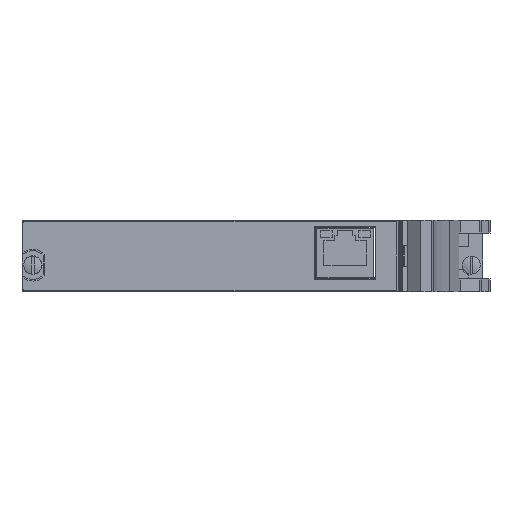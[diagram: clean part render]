
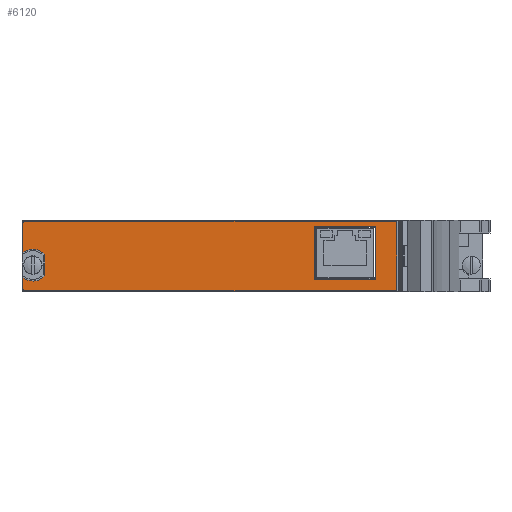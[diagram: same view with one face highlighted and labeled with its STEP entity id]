
A CAD part, left-side view. The second image highlights one B-rep face of the part: STEP entity #6120.
In plain terms, the highlighted planar face has unit normal (-1, 0, 0).
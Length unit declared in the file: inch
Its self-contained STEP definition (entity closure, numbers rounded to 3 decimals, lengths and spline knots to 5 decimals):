
#2058=CARTESIAN_POINT('',(-0.215,0.527,0.665));
#2059=DIRECTION('',(-1.,0.,0.));
#2060=DIRECTION('',(0.,0.,1.));
#2061=AXIS2_PLACEMENT_3D('',#2058,#2059,#2060);
#2063=DIRECTION('',(0.,1.,0.));
#2064=VECTOR('',#2063,4.07);
#2065=CARTESIAN_POINT('',(-0.215,-3.543,0.685));
#2066=LINE('',#2065,#2064);
#2067=CARTESIAN_POINT('',(-0.215,-3.543,0.665));
#2068=DIRECTION('',(-1.,0.,0.));
#2069=DIRECTION('',(0.,-1.,0.));
#2070=AXIS2_PLACEMENT_3D('',#2067,#2068,#2069);
#2072=DIRECTION('',(0.,0.,1.));
#2073=VECTOR('',#2072,0.728);
#2074=CARTESIAN_POINT('',(-0.215,-3.563,-0.063));
#2075=LINE('',#2074,#2073);
#2076=CARTESIAN_POINT('',(-0.215,-3.543,-0.063));
#2077=DIRECTION('',(-1.,0.,0.));
#2078=DIRECTION('',(0.,0.,-1.));
#2079=AXIS2_PLACEMENT_3D('',#2076,#2077,#2078);
#2081=DIRECTION('',(0.,-1.,0.));
#2082=VECTOR('',#2081,4.07);
#2083=CARTESIAN_POINT('',(-0.215,0.527,-0.083));
#2084=LINE('',#2083,#2082);
#2085=CARTESIAN_POINT('',(-0.215,0.527,-0.063));
#2086=DIRECTION('',(-1.,0.,0.));
#2087=DIRECTION('',(0.,1.,0.));
#2088=AXIS2_PLACEMENT_3D('',#2085,#2086,#2087);
#2090=DIRECTION('',(0.,0.,-1.));
#2091=VECTOR('',#2090,0.1263);
#2092=CARTESIAN_POINT('',(-0.215,0.547,0.0633));
#2093=LINE('',#2092,#2091);
#2094=CARTESIAN_POINT('',(-0.215,0.439,0.201));
#2095=DIRECTION('',(1.,0.,0.));
#2096=DIRECTION('',(0.,-0.76,-0.65));
#2097=AXIS2_PLACEMENT_3D('',#2094,#2095,#2096);
#2099=DIRECTION('',(0.,0.,-1.));
#2100=VECTOR('',#2099,0.22747);
#2101=CARTESIAN_POINT('',(-0.215,0.306,0.31474));
#2102=LINE('',#2101,#2100);
#2103=CARTESIAN_POINT('',(-0.215,0.439,0.201));
#2104=DIRECTION('',(1.,0.,0.));
#2105=DIRECTION('',(0.,0.617,0.787));
#2106=AXIS2_PLACEMENT_3D('',#2103,#2104,#2105);
#2108=DIRECTION('',(0.,0.,-1.));
#2109=VECTOR('',#2108,0.3263);
#2110=CARTESIAN_POINT('',(-0.215,0.547,0.665));
#2111=LINE('',#2110,#2109);
#2112=DIRECTION('',(0.,0.,-1.));
#2113=VECTOR('',#2112,0.585);
#2114=CARTESIAN_POINT('',(-0.215,-2.657,0.627));
#2115=LINE('',#2114,#2113);
#2116=DIRECTION('',(0.,-1.,0.));
#2117=VECTOR('',#2116,0.675);
#2118=CARTESIAN_POINT('',(-0.215,-2.657,0.042));
#2119=LINE('',#2118,#2117);
#2120=DIRECTION('',(0.,0.,1.));
#2121=VECTOR('',#2120,0.585);
#2122=CARTESIAN_POINT('',(-0.215,-3.332,0.042));
#2123=LINE('',#2122,#2121);
#2124=DIRECTION('',(0.,1.,0.));
#2125=VECTOR('',#2124,0.675);
#2126=CARTESIAN_POINT('',(-0.215,-3.332,0.627));
#2127=LINE('',#2126,#2125);
#3111=CARTESIAN_POINT('',(-0.215,0.527,0.685));
#3112=CARTESIAN_POINT('',(-0.215,0.547,0.665));
#3113=VERTEX_POINT('',#3111);
#3114=VERTEX_POINT('',#3112);
#3115=CARTESIAN_POINT('',(-0.215,0.547,0.3387));
#3116=VERTEX_POINT('',#3115);
#3117=CARTESIAN_POINT('',(-0.215,0.306,0.31474));
#3118=VERTEX_POINT('',#3117);
#3119=CARTESIAN_POINT('',(-0.215,0.306,0.08726));
#3120=VERTEX_POINT('',#3119);
#3121=CARTESIAN_POINT('',(-0.215,0.547,0.0633));
#3122=VERTEX_POINT('',#3121);
#3123=CARTESIAN_POINT('',(-0.215,0.547,-0.063));
#3124=VERTEX_POINT('',#3123);
#3125=CARTESIAN_POINT('',(-0.215,0.527,-0.083));
#3126=VERTEX_POINT('',#3125);
#3127=CARTESIAN_POINT('',(-0.215,-3.543,-0.083));
#3128=VERTEX_POINT('',#3127);
#3129=CARTESIAN_POINT('',(-0.215,-3.563,-0.063));
#3130=VERTEX_POINT('',#3129);
#3131=CARTESIAN_POINT('',(-0.215,-3.563,0.665));
#3132=VERTEX_POINT('',#3131);
#3133=CARTESIAN_POINT('',(-0.215,-3.543,0.685));
#3134=VERTEX_POINT('',#3133);
#3135=CARTESIAN_POINT('',(-0.215,-2.657,0.627));
#3136=CARTESIAN_POINT('',(-0.215,-2.657,0.042));
#3137=VERTEX_POINT('',#3135);
#3138=VERTEX_POINT('',#3136);
#3139=CARTESIAN_POINT('',(-0.215,-3.332,0.042));
#3140=VERTEX_POINT('',#3139);
#3141=CARTESIAN_POINT('',(-0.215,-3.332,0.627));
#3142=VERTEX_POINT('',#3141);
#6091=CARTESIAN_POINT('',(-0.215,0.439,0.201));
#6092=DIRECTION('',(-1.,0.,0.));
#6093=DIRECTION('',(0.,0.,1.));
#6094=AXIS2_PLACEMENT_3D('',#6091,#6092,#6093);
#6095=PLANE('',#6094);
#6096=ORIENTED_EDGE('',*,*,#5931,.F.);
#6097=ORIENTED_EDGE('',*,*,#5946,.F.);
#6098=ORIENTED_EDGE('',*,*,#5960,.F.);
#6099=ORIENTED_EDGE('',*,*,#5974,.F.);
#6100=ORIENTED_EDGE('',*,*,#5988,.F.);
#6101=ORIENTED_EDGE('',*,*,#6002,.F.);
#6102=ORIENTED_EDGE('',*,*,#6016,.F.);
#6103=ORIENTED_EDGE('',*,*,#6030,.F.);
#6104=ORIENTED_EDGE('',*,*,#6044,.F.);
#6105=ORIENTED_EDGE('',*,*,#6058,.F.);
#6106=ORIENTED_EDGE('',*,*,#6072,.F.);
#6107=ORIENTED_EDGE('',*,*,#6085,.F.);
#6108=EDGE_LOOP('',(#6096,#6097,#6098,#6099,#6100,#6101,#6102,#6103,#6104,#6105,
#6106,#6107));
#6109=FACE_OUTER_BOUND('',#6108,.F.);
#6111=ORIENTED_EDGE('',*,*,#6110,.T.);
#6113=ORIENTED_EDGE('',*,*,#6112,.T.);
#6115=ORIENTED_EDGE('',*,*,#6114,.T.);
#6117=ORIENTED_EDGE('',*,*,#6116,.T.);
#6118=EDGE_LOOP('',(#6111,#6113,#6115,#6117));
#6119=FACE_BOUND('',#6118,.F.);
#6120=ADVANCED_FACE('',(#6109,#6119),#6095,.T.);
#2062=CIRCLE('',#2061,0.02);
#2071=CIRCLE('',#2070,0.02);
#2080=CIRCLE('',#2079,0.02);
#2089=CIRCLE('',#2088,0.02);
#2098=CIRCLE('',#2097,0.175);
#2107=CIRCLE('',#2106,0.175);
#5931=EDGE_CURVE('',#3113,#3114,#2062,.T.);
#5946=EDGE_CURVE('',#3134,#3113,#2066,.T.);
#5960=EDGE_CURVE('',#3132,#3134,#2071,.T.);
#5974=EDGE_CURVE('',#3130,#3132,#2075,.T.);
#5988=EDGE_CURVE('',#3128,#3130,#2080,.T.);
#6002=EDGE_CURVE('',#3126,#3128,#2084,.T.);
#6016=EDGE_CURVE('',#3124,#3126,#2089,.T.);
#6030=EDGE_CURVE('',#3122,#3124,#2093,.T.);
#6044=EDGE_CURVE('',#3120,#3122,#2098,.T.);
#6058=EDGE_CURVE('',#3118,#3120,#2102,.T.);
#6072=EDGE_CURVE('',#3116,#3118,#2107,.T.);
#6085=EDGE_CURVE('',#3114,#3116,#2111,.T.);
#6110=EDGE_CURVE('',#3137,#3138,#2115,.T.);
#6112=EDGE_CURVE('',#3138,#3140,#2119,.T.);
#6114=EDGE_CURVE('',#3140,#3142,#2123,.T.);
#6116=EDGE_CURVE('',#3142,#3137,#2127,.T.);
